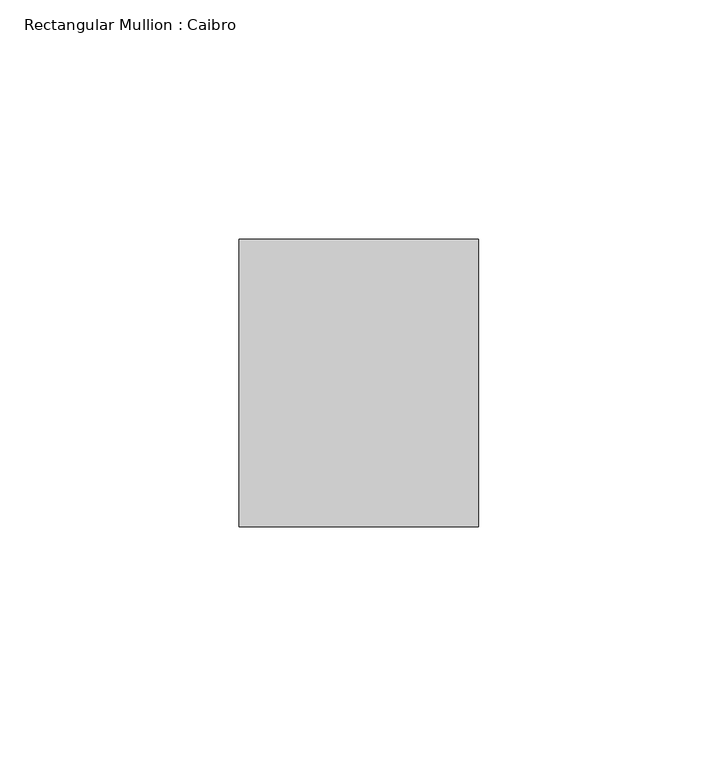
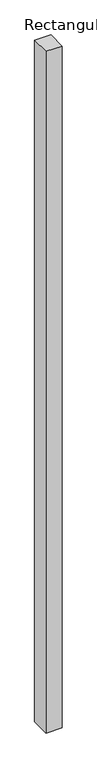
"""IFC4 building model written with IfcOpenShell, lengths in millimetres: member geometry, Rectangular Mullion : Caibro."""

from ifc_helpers import new_model, si_unit, frame, origin, place, context, project, spatial, polyline, outline, extrude, source, transform, mapped, element, save


def rectangular_mullion_caibro_65769db4(model_context):
    return source(origin(), model_context, "Body", "SweptSolid", [
        extrude(outline(polyline([(0.0, -60.0), (-50.0, -60.0), (-50.0, 0.0), (0.0, 0.0), (0.0, -60.0)])), frame((0.0, 0.0, -2219.7393248), z_axis=(0.0, 0.0, 1.0), x_axis=(1.0, 0.0, 0.0)), (0.0, 0.0, 1.0), 2219.7393248),
    ])


if __name__ == "__main__":
    model = new_model("IFC4")
    model_context = context("Model", 3, world=origin())
    ifc_project = project(units=[si_unit("LENGTHUNIT", "METRE", prefix="MILLI")], contexts=[model_context])
    site = spatial("IfcSite", under=ifc_project)
    building = spatial("IfcBuilding", under=site)
    placement = place(None, origin())
    rectangular_mullion_caibro_shape = rectangular_mullion_caibro_65769db4(model_context)
    element("IfcMember", 1, ObjectType="Rectangular Mullion : Caibro", at=placement, inside=building, context=model_context, shape_type="MappedRepresentation", body=[
        mapped(rectangular_mullion_caibro_shape, transform((0.0, 0.0, 0.0), x_axis=(1.0, 0.0, 0.0), y_axis=(0.0, 1.0, 0.0), z_axis=(0.0, 0.0, 1.0))),
    ])
    save(model, "model.ifc")
